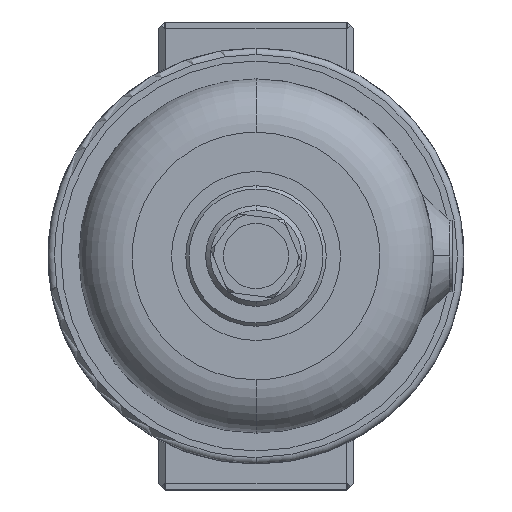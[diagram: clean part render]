
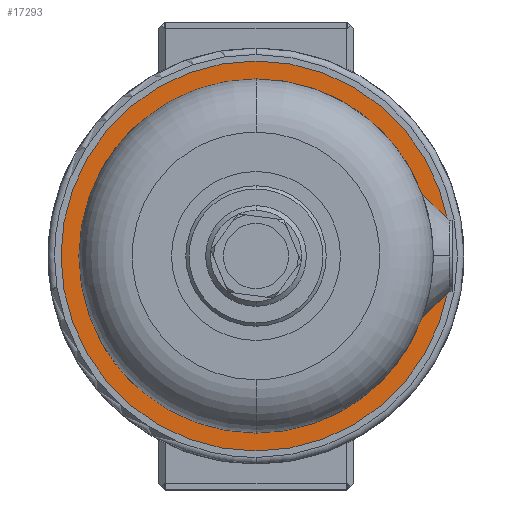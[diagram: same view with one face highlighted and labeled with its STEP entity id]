
A CAD part, front view. The second image highlights one B-rep face of the part: STEP entity #17293.
In plain terms, the highlighted planar face has unit normal (0, -1, 0).
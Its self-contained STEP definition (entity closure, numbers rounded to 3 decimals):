
#1104 = EDGE_CURVE ( 'NONE', #9146, #15856, #7097, .T. ) ;
#1190 = CIRCLE ( 'NONE', #17418, 30. ) ;
#2377 = AXIS2_PLACEMENT_3D ( 'NONE', #4829, #6488, #7856 ) ;
#2914 = CIRCLE ( 'NONE', #13785, 10. ) ;
#2947 = AXIS2_PLACEMENT_3D ( 'NONE', #15605, #18822, #12660 ) ;
#4449 = CARTESIAN_POINT ( 'NONE',  ( 0., 5.7, 0. ) ) ;
#4829 = CARTESIAN_POINT ( 'NONE',  ( 0., 5.7, 0. ) ) ;
#5121 = DIRECTION ( 'NONE',  ( 0., 1., 0. ) ) ;
#6433 = CARTESIAN_POINT ( 'NONE',  ( -20., 5.7, 0. ) ) ;
#6488 = DIRECTION ( 'NONE',  ( 0., 1., 0. ) ) ;
#7097 = CIRCLE ( 'NONE', #2377, 10. ) ;
#7210 = DIRECTION ( 'NONE',  ( 0., 0., 1. ) ) ;
#7712 = FACE_BOUND ( 'NONE', #12732, .T. ) ;
#7856 = DIRECTION ( 'NONE',  ( 0., 0., 1. ) ) ;
#9146 = VERTEX_POINT ( 'NONE', #17093 ) ;
#9155 = ORIENTED_EDGE ( 'NONE', *, *, #1104, .T. ) ;
#10074 = CARTESIAN_POINT ( 'NONE',  ( 0., 5.7, 30. ) ) ;
#10911 = DIRECTION ( 'NONE',  ( 0., 0., -1. ) ) ;
#12566 = EDGE_LOOP ( 'NONE', ( #15099, #14197 ) ) ;
#12580 = CIRCLE ( 'NONE', #2947, 30. ) ;
#12660 = DIRECTION ( 'NONE',  ( 0., 0., 1. ) ) ;
#12698 = EDGE_CURVE ( 'NONE', #16449, #13330, #1190, .T. ) ;
#12732 = EDGE_LOOP ( 'NONE', ( #9155, #17628 ) ) ;
#13330 = VERTEX_POINT ( 'NONE', #16038 ) ;
#13610 = EDGE_CURVE ( 'NONE', #13330, #16449, #12580, .T. ) ;
#13785 = AXIS2_PLACEMENT_3D ( 'NONE', #15813, #5121, #17223 ) ;
#13961 = AXIS2_PLACEMENT_3D ( 'NONE', #6433, #17122, #10911 ) ;
#14197 = ORIENTED_EDGE ( 'NONE', *, *, #13610, .T. ) ;
#15099 = ORIENTED_EDGE ( 'NONE', *, *, #12698, .T. ) ;
#15605 = CARTESIAN_POINT ( 'NONE',  ( 0., 5.7, 0. ) ) ;
#15813 = CARTESIAN_POINT ( 'NONE',  ( 0., 5.7, 0. ) ) ;
#15856 = VERTEX_POINT ( 'NONE', #17519 ) ;
#16038 = CARTESIAN_POINT ( 'NONE',  ( 0., 5.7, -30. ) ) ;
#16449 = VERTEX_POINT ( 'NONE', #10074 ) ;
#17093 = CARTESIAN_POINT ( 'NONE',  ( 0., 5.7, 10. ) ) ;
#17122 = DIRECTION ( 'NONE',  ( 0., -1., 0. ) ) ;
#17223 = DIRECTION ( 'NONE',  ( 0., 0., 1. ) ) ;
#17293 = ADVANCED_FACE ( 'NONE', ( #7712, #18208 ), #18659, .T. ) ;
#17418 = AXIS2_PLACEMENT_3D ( 'NONE', #4449, #19555, #7210 ) ;
#17519 = CARTESIAN_POINT ( 'NONE',  ( 0., 5.7, -10. ) ) ;
#17628 = ORIENTED_EDGE ( 'NONE', *, *, #18389, .T. ) ;
#18208 = FACE_OUTER_BOUND ( 'NONE', #12566, .T. ) ;
#18389 = EDGE_CURVE ( 'NONE', #15856, #9146, #2914, .T. ) ;
#18659 = PLANE ( 'NONE',  #13961 ) ;
#18822 = DIRECTION ( 'NONE',  ( 0., -1., 0. ) ) ;
#19555 = DIRECTION ( 'NONE',  ( 0., -1., 0. ) ) ;
